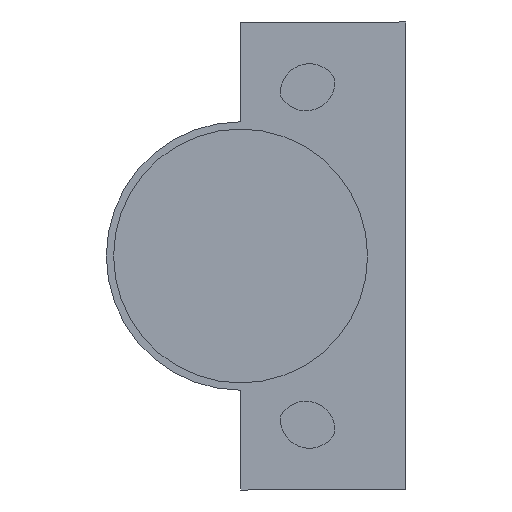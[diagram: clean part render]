
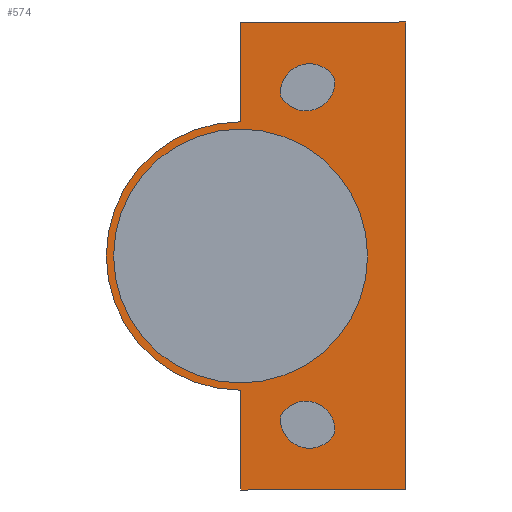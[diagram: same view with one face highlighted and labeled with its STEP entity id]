
A CAD part, front view. The second image highlights one B-rep face of the part: STEP entity #574.
In plain terms, the highlighted planar face has unit normal (0, -1, 0).
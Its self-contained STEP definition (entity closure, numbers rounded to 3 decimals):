
#3 = CARTESIAN_POINT ( 'NONE',  ( 17.53, -38.5, -22.01 ) ) ;
#4 = AXIS2_PLACEMENT_3D ( 'NONE', #1265, #1283, #132 ) ;
#16 = DIRECTION ( 'NONE',  ( -1., 0., 0. ) ) ;
#27 = ORIENTED_EDGE ( 'NONE', *, *, #497, .F. ) ;
#51 = EDGE_CURVE ( 'NONE', #1591, #1353, #1435, .T. ) ;
#58 = LINE ( 'NONE', #1482, #1451 ) ;
#86 = EDGE_LOOP ( 'NONE', ( #305, #1281, #1179 ) ) ;
#98 = CARTESIAN_POINT ( 'NONE',  ( -5.5, -38.5, 0. ) ) ;
#100 = CARTESIAN_POINT ( 'NONE',  ( 17.53, -38.5, 22.01 ) ) ;
#111 = DIRECTION ( 'NONE',  ( -1., 0., 0. ) ) ;
#132 = DIRECTION ( 'NONE',  ( -1., 0., 0. ) ) ;
#133 = CARTESIAN_POINT ( 'NONE',  ( 12., -38.5, 18.5 ) ) ;
#146 = CARTESIAN_POINT ( 'NONE',  ( 34.75, -38.5, -32.25 ) ) ;
#167 = VERTEX_POINT ( 'NONE', #133 ) ;
#175 = CARTESIAN_POINT ( 'NONE',  ( 12., -38.5, 0. ) ) ;
#192 = DIRECTION ( 'NONE',  ( -1., 0., 0. ) ) ;
#199 = CARTESIAN_POINT ( 'NONE',  ( 34.75, -38.5, 32.25 ) ) ;
#240 = CARTESIAN_POINT ( 'NONE',  ( 21., -38.5, 24. ) ) ;
#241 = VERTEX_POINT ( 'NONE', #907 ) ;
#269 = DIRECTION ( 'NONE',  ( 0., 1., 0. ) ) ;
#283 = FACE_BOUND ( 'NONE', #86, .T. ) ;
#284 = CARTESIAN_POINT ( 'NONE',  ( 24.97, -38.5, 24.49 ) ) ;
#291 = VERTEX_POINT ( 'NONE', #146 ) ;
#293 = CARTESIAN_POINT ( 'NONE',  ( 12., -38.5, -32.25 ) ) ;
#294 = VERTEX_POINT ( 'NONE', #293 ) ;
#304 = EDGE_CURVE ( 'NONE', #1404, #818, #1032, .T. ) ;
#305 = ORIENTED_EDGE ( 'NONE', *, *, #467, .T. ) ;
#324 = EDGE_CURVE ( 'NONE', #1317, #380, #398, .T. ) ;
#327 = ORIENTED_EDGE ( 'NONE', *, *, #1046, .T. ) ;
#337 = AXIS2_PLACEMENT_3D ( 'NONE', #382, #1275, #1410 ) ;
#375 = EDGE_CURVE ( 'NONE', #615, #670, #892, .T. ) ;
#380 = VERTEX_POINT ( 'NONE', #284 ) ;
#381 = VERTEX_POINT ( 'NONE', #1455 ) ;
#382 = CARTESIAN_POINT ( 'NONE',  ( 21., -38.5, -24. ) ) ;
#387 = DIRECTION ( 'NONE',  ( -1., 0., 0. ) ) ;
#396 = FACE_BOUND ( 'NONE', #875, .T. ) ;
#398 = CIRCLE ( 'NONE', #1608, 4. ) ;
#400 = CARTESIAN_POINT ( 'NONE',  ( 21.5, -38.5, 22.5 ) ) ;
#413 = CIRCLE ( 'NONE', #780, 4. ) ;
#444 = ORIENTED_EDGE ( 'NONE', *, *, #1178, .T. ) ;
#453 = DIRECTION ( 'NONE',  ( 0., 0., -1. ) ) ;
#467 = EDGE_CURVE ( 'NONE', #381, #1404, #587, .T. ) ;
#497 = EDGE_CURVE ( 'NONE', #167, #1591, #605, .T. ) ;
#522 = CARTESIAN_POINT ( 'NONE',  ( 17.5, -38.5, -22.5 ) ) ;
#523 = DIRECTION ( 'NONE',  ( -1., 0., 0. ) ) ;
#529 = CIRCLE ( 'NONE', #1221, 18.5 ) ;
#556 = DIRECTION ( 'NONE',  ( 0., -1., 0. ) ) ;
#571 = CARTESIAN_POINT ( 'NONE',  ( 12., -38.5, 0. ) ) ;
#574 = ADVANCED_FACE ( 'NONE', ( #1108, #283, #1539, #396 ), #1099, .F. ) ;
#582 = LINE ( 'NONE', #1207, #705 ) ;
#587 = CIRCLE ( 'NONE', #1444, 4. ) ;
#590 = CARTESIAN_POINT ( 'NONE',  ( 21.5, -38.5, -22.5 ) ) ;
#595 = CARTESIAN_POINT ( 'NONE',  ( 12., -38.5, 32.25 ) ) ;
#605 = LINE ( 'NONE', #1083, #850 ) ;
#615 = VERTEX_POINT ( 'NONE', #1110 ) ;
#624 = LINE ( 'NONE', #802, #1273 ) ;
#670 = VERTEX_POINT ( 'NONE', #98 ) ;
#679 = AXIS2_PLACEMENT_3D ( 'NONE', #1436, #764, #16 ) ;
#681 = CIRCLE ( 'NONE', #4, 17.5 ) ;
#693 = ORIENTED_EDGE ( 'NONE', *, *, #1227, .F. ) ;
#698 = EDGE_CURVE ( 'NONE', #1066, #1317, #413, .T. ) ;
#699 = DIRECTION ( 'NONE',  ( -1., 0., 0. ) ) ;
#705 = VECTOR ( 'NONE', #1333, 1000. ) ;
#708 = DIRECTION ( 'NONE',  ( 0., 0., 1. ) ) ;
#714 = DIRECTION ( 'NONE',  ( 0., 1., 0. ) ) ;
#726 = DIRECTION ( 'NONE',  ( 0., 1., 0. ) ) ;
#751 = EDGE_CURVE ( 'NONE', #818, #381, #849, .T. ) ;
#764 = DIRECTION ( 'NONE',  ( 0., 1., 0. ) ) ;
#773 = AXIS2_PLACEMENT_3D ( 'NONE', #175, #556, #192 ) ;
#780 = AXIS2_PLACEMENT_3D ( 'NONE', #1013, #269, #387 ) ;
#785 = CIRCLE ( 'NONE', #1488, 4. ) ;
#800 = EDGE_LOOP ( 'NONE', ( #1001, #327, #1016, #1331, #27, #1619 ) ) ;
#802 = CARTESIAN_POINT ( 'NONE',  ( 34.75, -38.5, -32.25 ) ) ;
#816 = AXIS2_PLACEMENT_3D ( 'NONE', #571, #714, #699 ) ;
#818 = VERTEX_POINT ( 'NONE', #3 ) ;
#849 = CIRCLE ( 'NONE', #337, 4. ) ;
#850 = VECTOR ( 'NONE', #708, 1000. ) ;
#851 = DIRECTION ( 'NONE',  ( 0., 1., 0. ) ) ;
#870 = VECTOR ( 'NONE', #977, 1000. ) ;
#875 = EDGE_LOOP ( 'NONE', ( #693, #1616 ) ) ;
#892 = CIRCLE ( 'NONE', #773, 17.5 ) ;
#907 = CARTESIAN_POINT ( 'NONE',  ( 12., -38.5, -18.5 ) ) ;
#958 = EDGE_LOOP ( 'NONE', ( #1418, #1024, #444 ) ) ;
#966 = DIRECTION ( 'NONE',  ( 0., 1., 0. ) ) ;
#977 = DIRECTION ( 'NONE',  ( 1., 0., 0. ) ) ;
#989 = EDGE_CURVE ( 'NONE', #294, #241, #582, .T. ) ;
#1001 = ORIENTED_EDGE ( 'NONE', *, *, #989, .F. ) ;
#1013 = CARTESIAN_POINT ( 'NONE',  ( 21.5, -38.5, 22.5 ) ) ;
#1016 = ORIENTED_EDGE ( 'NONE', *, *, #1533, .F. ) ;
#1024 = ORIENTED_EDGE ( 'NONE', *, *, #324, .T. ) ;
#1032 = CIRCLE ( 'NONE', #679, 4. ) ;
#1046 = EDGE_CURVE ( 'NONE', #294, #291, #624, .T. ) ;
#1063 = DIRECTION ( 'NONE',  ( 1., 0., 0. ) ) ;
#1066 = VERTEX_POINT ( 'NONE', #100 ) ;
#1083 = CARTESIAN_POINT ( 'NONE',  ( 12., -38.5, 18.5 ) ) ;
#1099 = PLANE ( 'NONE',  #816 ) ;
#1108 = FACE_OUTER_BOUND ( 'NONE', #800, .T. ) ;
#1110 = CARTESIAN_POINT ( 'NONE',  ( 29.5, -38.5, 0. ) ) ;
#1168 = EDGE_CURVE ( 'NONE', #241, #167, #529, .T. ) ;
#1178 = EDGE_CURVE ( 'NONE', #380, #1066, #785, .T. ) ;
#1179 = ORIENTED_EDGE ( 'NONE', *, *, #751, .T. ) ;
#1207 = CARTESIAN_POINT ( 'NONE',  ( 12., -38.5, -31. ) ) ;
#1221 = AXIS2_PLACEMENT_3D ( 'NONE', #1245, #726, #1515 ) ;
#1225 = DIRECTION ( 'NONE',  ( -1., 0., 0. ) ) ;
#1227 = EDGE_CURVE ( 'NONE', #670, #615, #681, .T. ) ;
#1245 = CARTESIAN_POINT ( 'NONE',  ( 12., -38.5, 0. ) ) ;
#1265 = CARTESIAN_POINT ( 'NONE',  ( 12., -38.5, 0. ) ) ;
#1273 = VECTOR ( 'NONE', #1063, 1000. ) ;
#1275 = DIRECTION ( 'NONE',  ( 0., 1., 0. ) ) ;
#1277 = CARTESIAN_POINT ( 'NONE',  ( 17.5, -38.5, 22.5 ) ) ;
#1281 = ORIENTED_EDGE ( 'NONE', *, *, #304, .T. ) ;
#1283 = DIRECTION ( 'NONE',  ( 0., -1., 0. ) ) ;
#1296 = DIRECTION ( 'NONE',  ( 0., 1., 0. ) ) ;
#1317 = VERTEX_POINT ( 'NONE', #1277 ) ;
#1331 = ORIENTED_EDGE ( 'NONE', *, *, #51, .F. ) ;
#1333 = DIRECTION ( 'NONE',  ( 0., 0., 1. ) ) ;
#1353 = VERTEX_POINT ( 'NONE', #199 ) ;
#1404 = VERTEX_POINT ( 'NONE', #522 ) ;
#1410 = DIRECTION ( 'NONE',  ( -1., 0., 0. ) ) ;
#1418 = ORIENTED_EDGE ( 'NONE', *, *, #698, .T. ) ;
#1435 = LINE ( 'NONE', #1617, #870 ) ;
#1436 = CARTESIAN_POINT ( 'NONE',  ( 21.5, -38.5, -22.5 ) ) ;
#1444 = AXIS2_PLACEMENT_3D ( 'NONE', #590, #966, #1225 ) ;
#1451 = VECTOR ( 'NONE', #453, 1000. ) ;
#1455 = CARTESIAN_POINT ( 'NONE',  ( 24.97, -38.5, -24.49 ) ) ;
#1482 = CARTESIAN_POINT ( 'NONE',  ( 34.75, -38.5, 32.25 ) ) ;
#1488 = AXIS2_PLACEMENT_3D ( 'NONE', #240, #851, #111 ) ;
#1515 = DIRECTION ( 'NONE',  ( -1., 0., 0. ) ) ;
#1533 = EDGE_CURVE ( 'NONE', #1353, #291, #58, .T. ) ;
#1539 = FACE_BOUND ( 'NONE', #958, .T. ) ;
#1591 = VERTEX_POINT ( 'NONE', #595 ) ;
#1608 = AXIS2_PLACEMENT_3D ( 'NONE', #400, #1296, #523 ) ;
#1616 = ORIENTED_EDGE ( 'NONE', *, *, #375, .F. ) ;
#1617 = CARTESIAN_POINT ( 'NONE',  ( 34.75, -38.5, 32.25 ) ) ;
#1619 = ORIENTED_EDGE ( 'NONE', *, *, #1168, .F. ) ;
